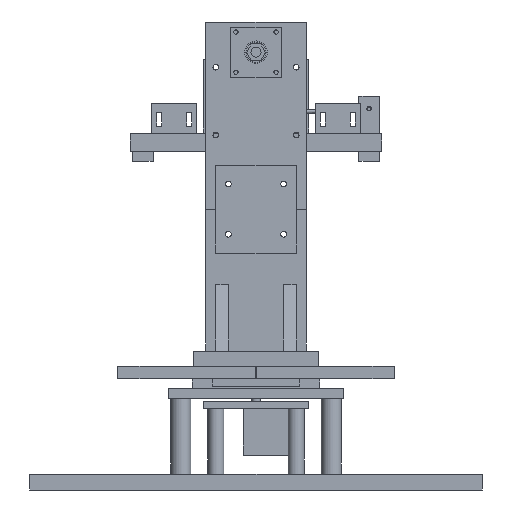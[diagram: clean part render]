
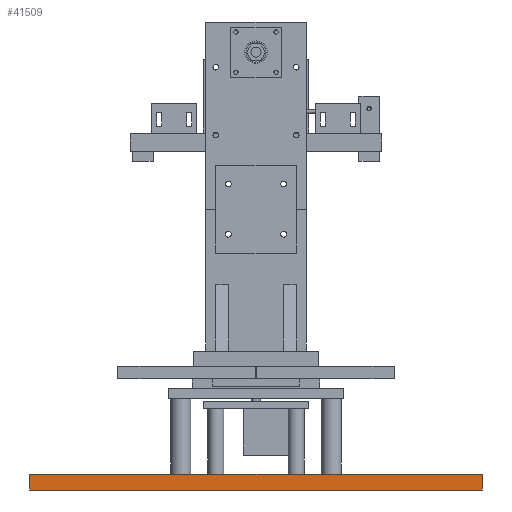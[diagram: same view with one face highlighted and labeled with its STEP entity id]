
A CAD part, front view. The second image highlights one B-rep face of the part: STEP entity #41509.
In plain terms, the highlighted planar face has unit normal (0, -1, 0).
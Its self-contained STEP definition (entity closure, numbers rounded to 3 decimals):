
#41393 = EDGE_CURVE('',#41394,#41396,#41398,.T.);
#41394 = VERTEX_POINT('',#41395);
#41395 = CARTESIAN_POINT('',(-180.,-150.,0.));
#41396 = VERTEX_POINT('',#41397);
#41397 = CARTESIAN_POINT('',(-180.,-150.,12.7));
#41398 = SURFACE_CURVE('',#41399,(#41403,#41415),.PCURVE_S1.);
#41399 = LINE('',#41400,#41401);
#41400 = CARTESIAN_POINT('',(-180.,-150.,0.));
#41401 = VECTOR('',#41402,1.);
#41402 = DIRECTION('',(0.,0.,1.));
#41403 = PCURVE('',#41404,#41409);
#41404 = PLANE('',#41405);
#41405 = AXIS2_PLACEMENT_3D('',#41406,#41407,#41408);
#41406 = CARTESIAN_POINT('',(-180.,-150.,0.));
#41407 = DIRECTION('',(1.,0.,0.));
#41408 = DIRECTION('',(0.,0.,1.));
#41409 = DEFINITIONAL_REPRESENTATION('',(#41410),#41414);
#41410 = LINE('',#41411,#41412);
#41411 = CARTESIAN_POINT('',(0.,0.));
#41412 = VECTOR('',#41413,1.);
#41413 = DIRECTION('',(1.,0.));
#41414 = ( GEOMETRIC_REPRESENTATION_CONTEXT(2) 
PARAMETRIC_REPRESENTATION_CONTEXT() REPRESENTATION_CONTEXT('2D SPACE',''
  ) );
#41415 = PCURVE('',#41416,#41421);
#41416 = PLANE('',#41417);
#41417 = AXIS2_PLACEMENT_3D('',#41418,#41419,#41420);
#41418 = CARTESIAN_POINT('',(-180.,-150.,0.));
#41419 = DIRECTION('',(0.,1.,0.));
#41420 = DIRECTION('',(0.,0.,1.));
#41421 = DEFINITIONAL_REPRESENTATION('',(#41422),#41426);
#41422 = LINE('',#41423,#41424);
#41423 = CARTESIAN_POINT('',(0.,0.));
#41424 = VECTOR('',#41425,1.);
#41425 = DIRECTION('',(1.,0.));
#41426 = ( GEOMETRIC_REPRESENTATION_CONTEXT(2) 
PARAMETRIC_REPRESENTATION_CONTEXT() REPRESENTATION_CONTEXT('2D SPACE',''
  ) );
#41444 = PLANE('',#41445);
#41445 = AXIS2_PLACEMENT_3D('',#41446,#41447,#41448);
#41446 = CARTESIAN_POINT('',(-180.,-150.,0.));
#41447 = DIRECTION('',(0.,0.,1.));
#41448 = DIRECTION('',(1.,0.,0.));
#41498 = PLANE('',#41499);
#41499 = AXIS2_PLACEMENT_3D('',#41500,#41501,#41502);
#41500 = CARTESIAN_POINT('',(-180.,-150.,12.7));
#41501 = DIRECTION('',(0.,0.,1.));
#41502 = DIRECTION('',(1.,0.,0.));
#41509 = ADVANCED_FACE('',(#41510),#41416,.F.);
#41510 = FACE_BOUND('',#41511,.F.);
#41511 = EDGE_LOOP('',(#41512,#41535,#41536,#41559));
#41512 = ORIENTED_EDGE('',*,*,#41513,.F.);
#41513 = EDGE_CURVE('',#41394,#41514,#41516,.T.);
#41514 = VERTEX_POINT('',#41515);
#41515 = CARTESIAN_POINT('',(180.,-150.,0.));
#41516 = SURFACE_CURVE('',#41517,(#41521,#41528),.PCURVE_S1.);
#41517 = LINE('',#41518,#41519);
#41518 = CARTESIAN_POINT('',(-180.,-150.,0.));
#41519 = VECTOR('',#41520,1.);
#41520 = DIRECTION('',(1.,0.,0.));
#41521 = PCURVE('',#41416,#41522);
#41522 = DEFINITIONAL_REPRESENTATION('',(#41523),#41527);
#41523 = LINE('',#41524,#41525);
#41524 = CARTESIAN_POINT('',(0.,0.));
#41525 = VECTOR('',#41526,1.);
#41526 = DIRECTION('',(0.,1.));
#41527 = ( GEOMETRIC_REPRESENTATION_CONTEXT(2) 
PARAMETRIC_REPRESENTATION_CONTEXT() REPRESENTATION_CONTEXT('2D SPACE',''
  ) );
#41528 = PCURVE('',#41444,#41529);
#41529 = DEFINITIONAL_REPRESENTATION('',(#41530),#41534);
#41530 = LINE('',#41531,#41532);
#41531 = CARTESIAN_POINT('',(0.,0.));
#41532 = VECTOR('',#41533,1.);
#41533 = DIRECTION('',(1.,0.));
#41534 = ( GEOMETRIC_REPRESENTATION_CONTEXT(2) 
PARAMETRIC_REPRESENTATION_CONTEXT() REPRESENTATION_CONTEXT('2D SPACE',''
  ) );
#41535 = ORIENTED_EDGE('',*,*,#41393,.T.);
#41536 = ORIENTED_EDGE('',*,*,#41537,.T.);
#41537 = EDGE_CURVE('',#41396,#41538,#41540,.T.);
#41538 = VERTEX_POINT('',#41539);
#41539 = CARTESIAN_POINT('',(180.,-150.,12.7));
#41540 = SURFACE_CURVE('',#41541,(#41545,#41552),.PCURVE_S1.);
#41541 = LINE('',#41542,#41543);
#41542 = CARTESIAN_POINT('',(-180.,-150.,12.7));
#41543 = VECTOR('',#41544,1.);
#41544 = DIRECTION('',(1.,0.,0.));
#41545 = PCURVE('',#41416,#41546);
#41546 = DEFINITIONAL_REPRESENTATION('',(#41547),#41551);
#41547 = LINE('',#41548,#41549);
#41548 = CARTESIAN_POINT('',(12.7,0.));
#41549 = VECTOR('',#41550,1.);
#41550 = DIRECTION('',(0.,1.));
#41551 = ( GEOMETRIC_REPRESENTATION_CONTEXT(2) 
PARAMETRIC_REPRESENTATION_CONTEXT() REPRESENTATION_CONTEXT('2D SPACE',''
  ) );
#41552 = PCURVE('',#41498,#41553);
#41553 = DEFINITIONAL_REPRESENTATION('',(#41554),#41558);
#41554 = LINE('',#41555,#41556);
#41555 = CARTESIAN_POINT('',(0.,0.));
#41556 = VECTOR('',#41557,1.);
#41557 = DIRECTION('',(1.,0.));
#41558 = ( GEOMETRIC_REPRESENTATION_CONTEXT(2) 
PARAMETRIC_REPRESENTATION_CONTEXT() REPRESENTATION_CONTEXT('2D SPACE',''
  ) );
#41559 = ORIENTED_EDGE('',*,*,#41560,.F.);
#41560 = EDGE_CURVE('',#41514,#41538,#41561,.T.);
#41561 = SURFACE_CURVE('',#41562,(#41566,#41573),.PCURVE_S1.);
#41562 = LINE('',#41563,#41564);
#41563 = CARTESIAN_POINT('',(180.,-150.,0.));
#41564 = VECTOR('',#41565,1.);
#41565 = DIRECTION('',(0.,0.,1.));
#41566 = PCURVE('',#41416,#41567);
#41567 = DEFINITIONAL_REPRESENTATION('',(#41568),#41572);
#41568 = LINE('',#41569,#41570);
#41569 = CARTESIAN_POINT('',(0.,360.));
#41570 = VECTOR('',#41571,1.);
#41571 = DIRECTION('',(1.,0.));
#41572 = ( GEOMETRIC_REPRESENTATION_CONTEXT(2) 
PARAMETRIC_REPRESENTATION_CONTEXT() REPRESENTATION_CONTEXT('2D SPACE',''
  ) );
#41573 = PCURVE('',#41574,#41579);
#41574 = PLANE('',#41575);
#41575 = AXIS2_PLACEMENT_3D('',#41576,#41577,#41578);
#41576 = CARTESIAN_POINT('',(180.,-150.,0.));
#41577 = DIRECTION('',(1.,0.,0.));
#41578 = DIRECTION('',(0.,0.,1.));
#41579 = DEFINITIONAL_REPRESENTATION('',(#41580),#41584);
#41580 = LINE('',#41581,#41582);
#41581 = CARTESIAN_POINT('',(0.,0.));
#41582 = VECTOR('',#41583,1.);
#41583 = DIRECTION('',(1.,0.));
#41584 = ( GEOMETRIC_REPRESENTATION_CONTEXT(2) 
PARAMETRIC_REPRESENTATION_CONTEXT() REPRESENTATION_CONTEXT('2D SPACE',''
  ) );
